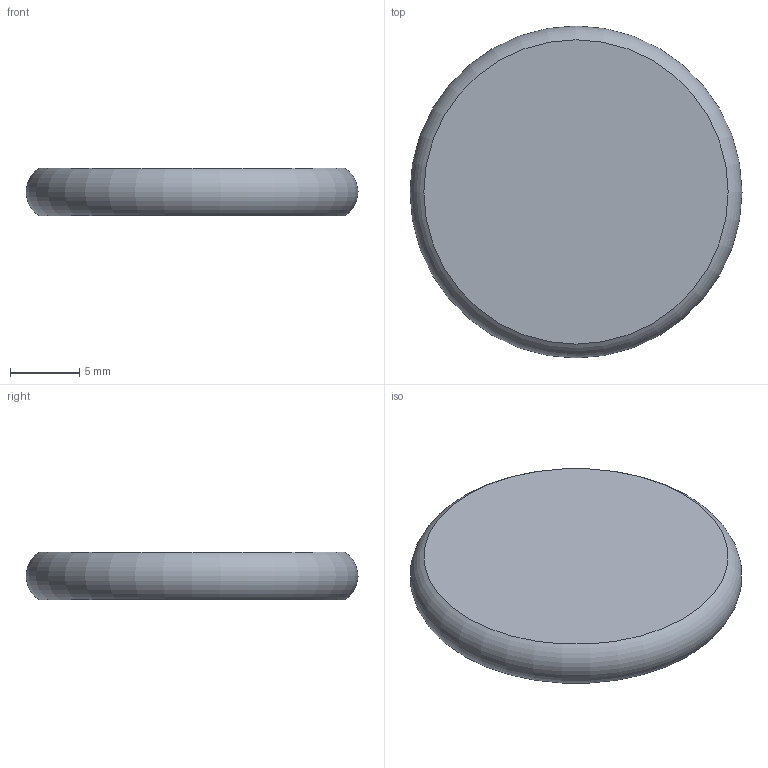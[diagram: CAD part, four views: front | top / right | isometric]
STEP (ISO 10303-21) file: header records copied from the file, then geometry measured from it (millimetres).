
FILE_DESCRIPTION(('BRL-CAD AP214 collapsed torus seam fixture'),'2;1');
FILE_NAME('ap214_collapsed_torus_seam.stp','2026-07-18T00:00:00',('BRL-CAD'),('BRL-CAD'),'','','');
FILE_SCHEMA(('AUTOMOTIVE_DESIGN { 1 0 10303 214 3 1 1 1 }'));
Length unit declared in the file: millimetre
Products named in the file (1): collapsed_torus_seam
Bounding box: 24 x 24 x 3.46 mm (x, y, z)
Volume: 1492.9 mm3; surface area: 1067 mm2
Topology: 1 solids, 1 shells, 3 faces, 3 edges, 2 vertices
Faces by surface type: plane 2, torus 1
Entity records: 56 total; most frequent: CARTESIAN_POINT 6, AXIS2_PLACEMENT_3D 6, ORIENTED_EDGE 6, DIRECTION 4, CIRCLE 3, EDGE_CURVE 3, EDGE_LOOP 3, FACE_OUTER_BOUND 3
